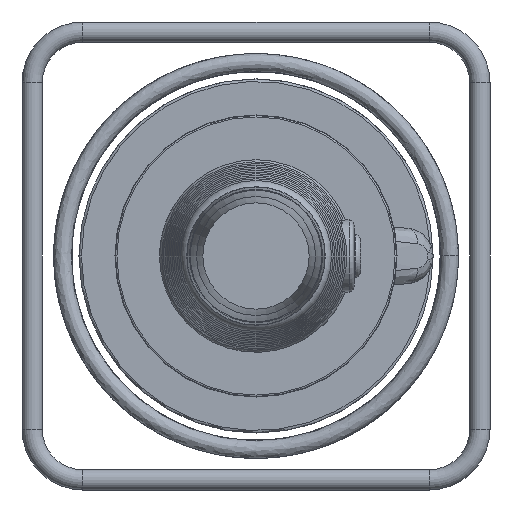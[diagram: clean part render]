
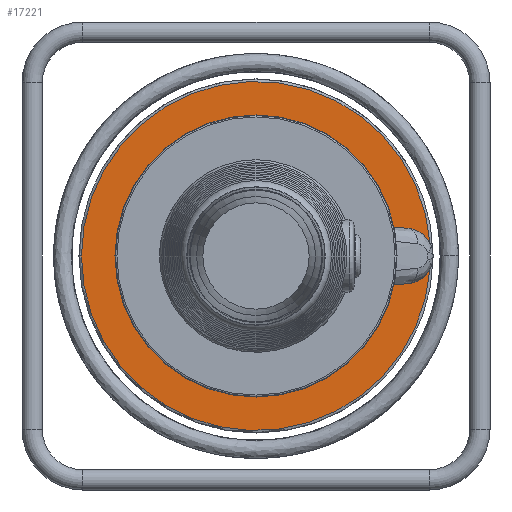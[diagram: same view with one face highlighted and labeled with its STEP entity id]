
A CAD part, left-side view. The second image highlights one B-rep face of the part: STEP entity #17221.
In plain terms, the highlighted planar face has unit normal (-1, 0, 0).
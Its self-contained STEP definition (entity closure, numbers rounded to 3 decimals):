
#822=PLANE('',#18243);
#1810=LINE('',#38465,#2781);
#1816=LINE('',#38800,#2787);
#2781=VECTOR('',#21172,10.);
#2787=VECTOR('',#21228,10.);
#3691=FACE_OUTER_BOUND('',#4735,.T.);
#4735=EDGE_LOOP('',(#14803,#14804,#14805,#14806,#14807,#14808,#14809,#14810,
#14811));
#5789=CIRCLE('',#17498,138.);
#6035=CIRCLE('',#18172,10.);
#6042=CIRCLE('',#18182,22.);
#6043=CIRCLE('',#18183,22.);
#6057=CIRCLE('',#18204,10.);
#6058=CIRCLE('',#18207,138.);
#6081=CIRCLE('',#18242,91.5);
#6532=VERTEX_POINT('',#22673);
#6535=VERTEX_POINT('',#22679);
#7821=VERTEX_POINT('',#38404);
#7822=VERTEX_POINT('',#38406);
#7831=VERTEX_POINT('',#38463);
#7834=VERTEX_POINT('',#38484);
#7835=VERTEX_POINT('',#38487);
#7850=VERTEX_POINT('',#38781);
#7851=VERTEX_POINT('',#38796);
#8228=EDGE_CURVE('',#6535,#6532,#5789,.T.);
#10153=EDGE_CURVE('',#7822,#7821,#6035,.T.);
#10166=EDGE_CURVE('',#7821,#7831,#1810,.T.);
#10170=EDGE_CURVE('',#6535,#7834,#6042,.T.);
#10172=EDGE_CURVE('',#7831,#7835,#6043,.T.);
#10199=EDGE_CURVE('',#7851,#7850,#6057,.T.);
#10201=EDGE_CURVE('',#7834,#7851,#1816,.T.);
#10202=EDGE_CURVE('',#6532,#7835,#6058,.T.);
#10228=EDGE_CURVE('',#7850,#7822,#6081,.T.);
#14803=ORIENTED_EDGE('',*,*,#10172,.T.);
#14804=ORIENTED_EDGE('',*,*,#10202,.F.);
#14805=ORIENTED_EDGE('',*,*,#8228,.F.);
#14806=ORIENTED_EDGE('',*,*,#10170,.T.);
#14807=ORIENTED_EDGE('',*,*,#10201,.T.);
#14808=ORIENTED_EDGE('',*,*,#10199,.T.);
#14809=ORIENTED_EDGE('',*,*,#10228,.T.);
#14810=ORIENTED_EDGE('',*,*,#10153,.T.);
#14811=ORIENTED_EDGE('',*,*,#10166,.T.);
#17221=ADVANCED_FACE('',(#3691),#822,.T.);
#17498=AXIS2_PLACEMENT_3D('',#22690,#18905,#18906);
#18172=AXIS2_PLACEMENT_3D('',#38407,#21152,#21153);
#18182=AXIS2_PLACEMENT_3D('',#38486,#21176,#21177);
#18183=AXIS2_PLACEMENT_3D('',#38498,#21178,#21179);
#18204=AXIS2_PLACEMENT_3D('',#38797,#21223,#21224);
#18207=AXIS2_PLACEMENT_3D('',#38802,#21231,#21232);
#18242=AXIS2_PLACEMENT_3D('',#38854,#21304,#21305);
#18243=AXIS2_PLACEMENT_3D('',#38855,#21306,#21307);
#18905=DIRECTION('center_axis',(1.,0.,0.));
#18906=DIRECTION('ref_axis',(0.,0.,
1.));
#21152=DIRECTION('center_axis',(-1.,0.,0.));
#21153=DIRECTION('ref_axis',(0.,0.934,-0.358));
#21172=DIRECTION('',(0.,-0.996,-0.087));
#21176=DIRECTION('center_axis',(1.,0.,0.));
#21177=DIRECTION('ref_axis',(0.,0.087,0.996));
#21178=DIRECTION('center_axis',(1.,0.,0.));
#21179=DIRECTION('ref_axis',(0.,0.087,0.996));
#21223=DIRECTION('center_axis',(-1.,0.,0.));
#21224=DIRECTION('ref_axis',(0.,0.087,0.996));
#21228=DIRECTION('',(0.,0.996,-0.087));
#21231=DIRECTION('center_axis',(1.,0.,0.));
#21232=DIRECTION('ref_axis',(0.,0.,
1.));
#21304=DIRECTION('center_axis',(1.,0.,0.));
#21305=DIRECTION('ref_axis',(0.,0.,
1.));
#21306=DIRECTION('center_axis',(-1.,0.,0.));
#21307=DIRECTION('ref_axis',(0.,1.,0.));
#22673=CARTESIAN_POINT('',(-17.009,137.996,0.));
#22679=CARTESIAN_POINT('',(-17.009,-137.649,-9.905));
#22690=CARTESIAN_POINT('Origin',(-17.009,-0.004,
0.));
#38404=CARTESIAN_POINT('',(-17.009,-89.231,24.601));
#38406=CARTESIAN_POINT('',(-17.009,-88.088,24.768));
#38407=CARTESIAN_POINT('Origin',(-17.009,-90.102,34.563));
#38463=CARTESIAN_POINT('',(-17.009,-119.922,21.916));
#38465=CARTESIAN_POINT('',(-17.009,-41.043,28.817));
#38484=CARTESIAN_POINT('',(-17.009,-119.922,-21.916));
#38486=CARTESIAN_POINT('Origin',(-17.009,-118.004,0.));
#38487=CARTESIAN_POINT('',(-17.009,-137.649,9.905));
#38498=CARTESIAN_POINT('Origin',(-17.009,-118.004,0.));
#38781=CARTESIAN_POINT('',(-17.009,-88.088,-24.768));
#38796=CARTESIAN_POINT('',(-17.009,-89.231,-24.601));
#38797=CARTESIAN_POINT('Origin',(-17.009,-90.102,-34.563));
#38800=CARTESIAN_POINT('',(-17.009,-66.352,-26.603));
#38802=CARTESIAN_POINT('Origin',(-17.009,-0.004,
0.));
#38854=CARTESIAN_POINT('Origin',(-17.009,-0.004,
0.));
#38855=CARTESIAN_POINT('Origin',(-17.009,-0.004,
114.75));
